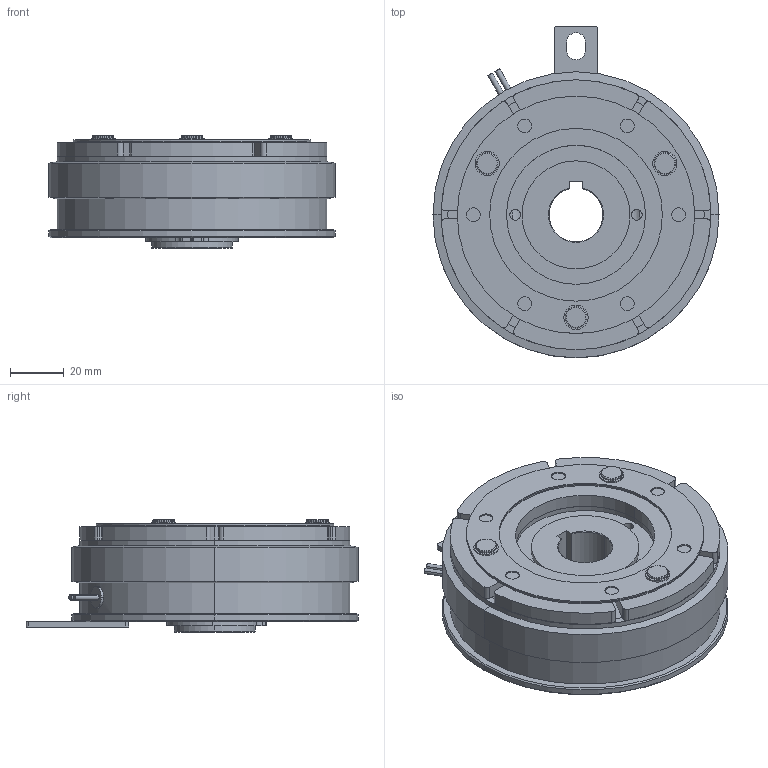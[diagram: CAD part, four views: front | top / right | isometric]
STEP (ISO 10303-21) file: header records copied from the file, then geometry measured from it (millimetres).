
FILE_DESCRIPTION (( 'STEP AP214' ), '1' );
FILE_NAME ('C-M20-R01-20.STEP', '2017-03-03T05:41:59', ( 'tec4' ), ( '' ), 'SwSTEP 2.0', 'SolidWorks 2015', '' );
FILE_SCHEMA (( 'AUTOMOTIVE_DESIGN' ));
Length unit declared in the file: millimetre
Products named in the file (1): C-M20-R01-20
Bounding box: 106 x 123 x 41.8 mm (x, y, z)
Surface area: 66985.9 mm2 (no closed solid volume)
Topology: 0 solids, 19 shells, 206 faces, 580 edges, 400 vertices
Faces by surface type: cylinder 115, plane 57, torus 24, cone 10
Entity records: 9250 total; most frequent: DIRECTION 1351, CARTESIAN_POINT 1269, ORIENTED_EDGE 1018, EDGE_CURVE 580, AXIS2_PLACEMENT_3D 570, VERTEX_POINT 400, CIRCLE 363, EDGE_LOOP 274
